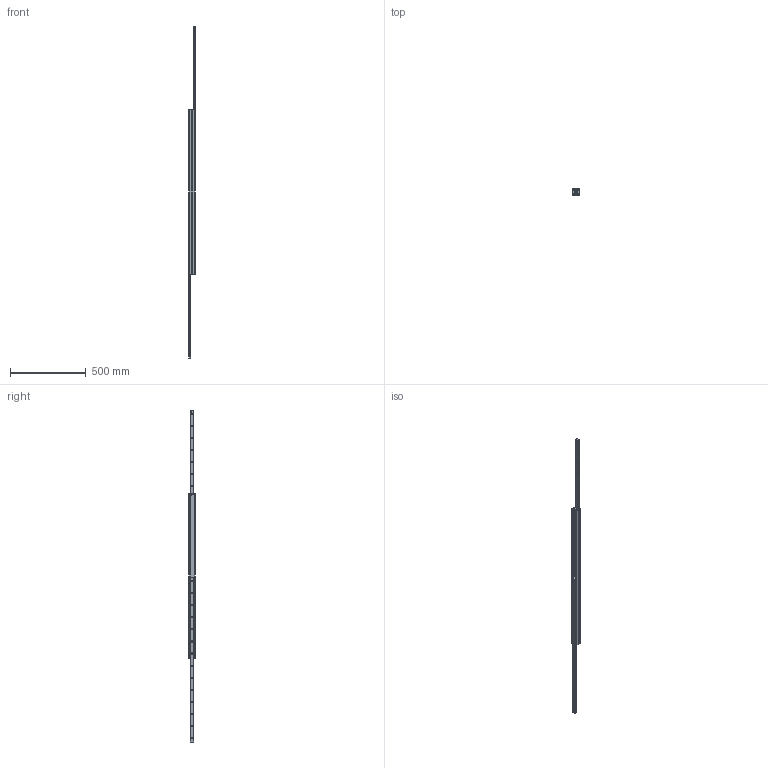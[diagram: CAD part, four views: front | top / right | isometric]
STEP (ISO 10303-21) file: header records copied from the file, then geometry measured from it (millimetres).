
FILE_DESCRIPTION( ( 'STEP AP214' ), '1' );
FILE_NAME( 'p:/temp/worker_90/temp/exporttempdir_3096_1722_TpDdm/format_1/DEF43-10901106.stp', '2020-03-20T19:59:19', ( 'License CC BY-ND 4.0' ), ( 'CADENAS' ), ' ', 'PARTsolutions', ' ' );
FILE_SCHEMA( ( 'AUTOMOTIVE_DESIGN { 1 0 10303 214 1 1 1 1 }' ) );
Length unit declared in the file: millimetre
Products named in the file (4): DEF43-10901106; _43211090110612-gf; _4321109011061-ei; _43211090110611-gf
Assembly tree (4 placements, depth 2):
  DEF43-10901106
    _43211090110612-gf
    _4321109011061-ei  x2
    _43211090110611-gf
Bounding box: 44 x 43 x 2196 mm (x, y, z)
Volume: 1347398.6 mm3; surface area: 514143.5 mm2
Topology: 4 solids, 4 shells, 236 faces, 588 edges, 372 vertices
Faces by surface type: plane 102, cylinder 74, cone 60
Full cylindrical faces by diameter (mm): 4.134 x2, 6.647 x28, 7 x2
Entity records: 6788 total; most frequent: DIRECTION 940, CARTESIAN_POINT 857, ORIENTED_EDGE 750, EDGE_CURVE 375, AXIS2_PLACEMENT_3D 372, EDGE_LOOP 340, VERTEX_POINT 289, FACE_OUTER_BOUND 218
